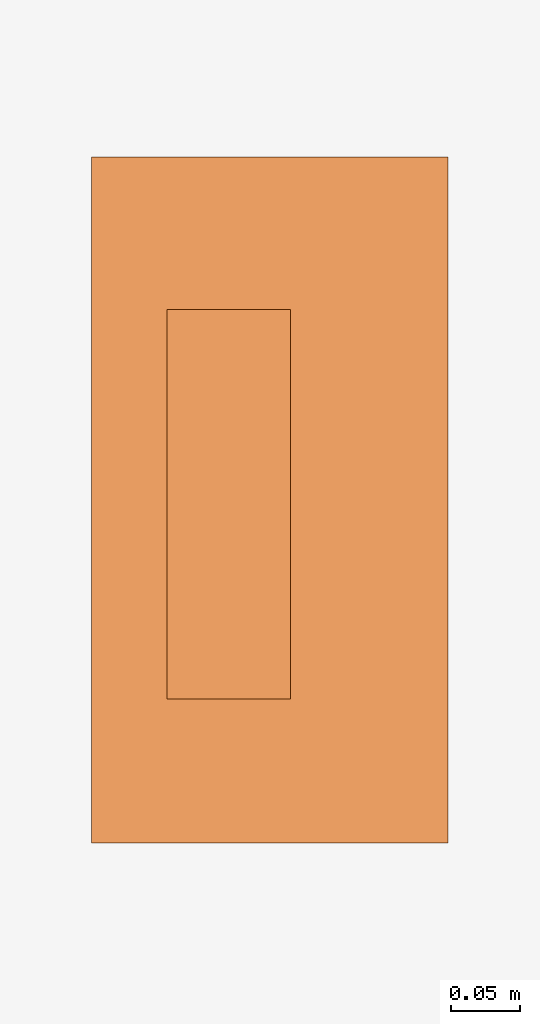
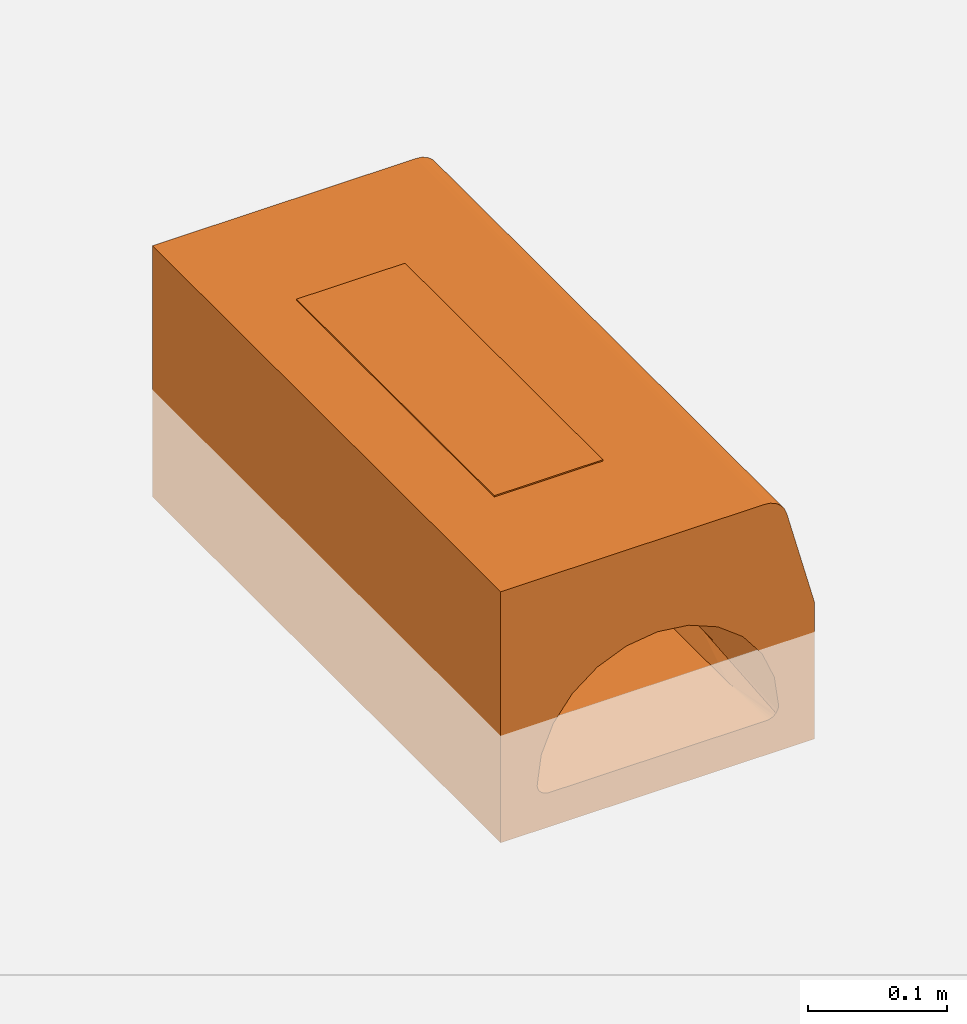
# One storey, part 2 of 2: 1 proxy.
"""IFC2X3 building model written with IfcOpenShell, lengths in millimetres."""

from ifc_helpers import new_model, entity, si_unit, converted_unit, direction, frame, origin, place, context, subcontext, project, spatial, faceted_brep, source, transform, mapped, material, material_list, element, save


model = new_model("IFC2X3")

# Units and contexts
model_context = context("Model", 3, precision=1e-06, world=origin(), true_north=direction((2.0, 6.12303176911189e-17, 1.0)))
context_of_model = context(None, 3, precision=1e-06, world=origin(), true_north=direction((2.0, 6.12303176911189e-17, 1.0)))
body_context = subcontext(model_context, "Body", "Model", "MODEL_VIEW")
ifc_project = project(units=[si_unit("LENGTHUNIT", "METRE", prefix="MILLI"), si_unit("AREAUNIT", "SQUARE_METRE", prefix="MILLI"), si_unit("VOLUMEUNIT", "CUBIC_METRE", prefix="MILLI"), converted_unit("PLANEANGLEUNIT", "DEGREE", entity("IfcRatioMeasure", 0.0174532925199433), si_unit("PLANEANGLEUNIT", "RADIAN"), dimensions=[0, 0, 0, 0, 0, 0, 0]), si_unit("TIMEUNIT", "SECOND")], contexts=[model_context, context_of_model])

# Site, building, storey
site_placement = place(None, origin())
site = spatial("IfcSite", under=ifc_project, at=site_placement, Name="Default", CompositionType="ELEMENT")
building_placement = place(site_placement, origin())
building = spatial("IfcBuilding", under=site, at=building_placement, CompositionType="ELEMENT")
storey_placement = place(building_placement, origin())
storey = spatial("IfcBuildingStorey", under=building, at=storey_placement, Name="Level 1", CompositionType="ELEMENT", Elevation=0.0)

# Proxy
ifc_material_1 = material(Name="ACO Polymer Concrete.")
ifc_material_2 = material(Name="Iron, Cast")
ifc_material_list = material_list([ifc_material_1, ifc_material_2])
shared_shape = source(origin(), body_context, "Body", "Brep", [
    faceted_brep([(-38.8908729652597, 158.89087296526, -85.0), (-27.4999999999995, 167.631397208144, -85.0), (-14.2350474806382, 173.125920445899, -85.0), (-53.1259204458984, 134.235047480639, -85.0), (0.0, 175.0, -85.0), (-47.6313972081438, 147.5, -85.0), (27.5000000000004, 167.631397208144, -85.0), (47.6313972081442, 92.4999999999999, -85.0), (14.2350474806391, 173.125920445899, -85.0), (38.8908729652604, 158.89087296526, -85.0), (47.6313972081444, 147.5, -85.0), (53.125920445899, 134.235047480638, -85.0), (55.0, 120.0, -85.0), (-53.1259204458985, 105.764952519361, -85.0), (-55.0, 120.0, -85.0), (-38.8908729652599, 81.1091270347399, -85.0), (-47.6313972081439, 92.5, -85.0), (-27.4999999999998, 72.3686027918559, -85.0), (0.0, 65.0, -85.0), (-14.2350474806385, 66.8740795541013, -85.0), (53.1259204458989, 105.764952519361, -85.0), (38.8908729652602, 81.1091270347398, -85.0), (27.5000000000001, 72.3686027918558, -85.0), (14.2350474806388, 66.8740795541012, -85.0), (130.000009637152, 500.0, -95.0), (99.2855055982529, 500.0, -59.2990928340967), (100.017694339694, 500.0, -57.1736244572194), (98.0970309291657, 500.0, -61.2072972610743), (100.256594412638, 500.0, -54.9383072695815), (130.000009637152, 500.0, 25.0), (90.256784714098, 500.0, -65.0), (92.4905855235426, 500.0, -64.7473141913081), (-89.861003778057, 500.0, -65.0), (96.5123324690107, 500.0, -62.8018025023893), (94.6114963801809, 500.0, -64.0020267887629), (105.080360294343, 500.0, 115.499999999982), (106.978468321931, 500.0, 110.91756185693), (93.5434394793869, 500.0, 124.352590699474), (98.125877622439, 500.0, 122.454482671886), (102.060906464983, 500.0, 119.435028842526), (70.6258340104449, 500.0, 15.5185016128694), (86.5957358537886, 500.0, -5.08474068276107), (49.8756910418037, 500.0, 31.2970606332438), (88.625877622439, 500.0, 125.0), (96.7013200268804, 500.0, -29.1140670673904), (-130.0, 500.0, -95.0), (-92.359600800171, 500.0, -64.6828205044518), (-94.6996970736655, 500.0, -63.7514025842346), (-96.7328464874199, 500.0, -62.2648315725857), (-98.330074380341, 500.0, -60.3174094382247), (-99.3900591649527, 500.0, -58.0326726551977), (-99.8455597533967, 500.0, -55.5555555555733), (-96.4496698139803, 500.0, -29.7098733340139), (-130.0, 500.0, 125.0), (-0.102156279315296, 500.0, 44.4959975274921), (25.7538781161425, 500.0, 41.1798486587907), (-70.6500305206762, 500.0, 15.0827127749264), (-86.4925214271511, 500.0, -5.61866012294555), (-25.937240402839, 500.0, 41.020398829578), (-49.9976246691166, 500.0, 30.9889848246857), (-130.0, 0.0, -95.0), (-98.330074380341, 0.0, -60.3174094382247), (-99.3900591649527, 0.0, -58.0326726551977), (-96.7328464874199, 0.0, -62.2648315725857), (-99.8455597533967, 0.0, -55.5555555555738), (-96.4496698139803, 0.0, -29.7098733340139), (-130.0, 0.0, 125.0), (-89.861003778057, 0.0, -65.0), (-92.359600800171, 0.0, -64.6828205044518), (130.000009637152, 0.0, -95.0), (-94.6996970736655, 0.0, -63.7514025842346), (-86.4925214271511, 0.0, -5.61866012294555), (-70.6500305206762, 0.0, 15.0827127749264), (-49.9976246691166, 0.0, 30.9889848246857), (-25.937240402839, 0.0, 41.020398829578), (49.8756910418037, 0.0, 31.2970606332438), (70.6258340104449, 0.0, 15.5185016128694), (106.978468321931, 0.0, 110.91756185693), (-0.102156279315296, 0.0, 44.4959975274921), (88.625877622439, 0.0, 125.0), (25.7538781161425, 0.0, 41.1798486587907), (92.4905855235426, 0.0, -64.7473141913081), (90.256784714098, 0.0, -65.0), (96.5123324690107, 0.0, -62.8018025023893), (94.6114963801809, 0.0, -64.0020267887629), (98.0970309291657, 0.0, -61.2072972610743), (99.2855055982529, 0.0, -59.2990928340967), (100.017694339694, 0.0, -57.1736244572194), (100.256594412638, 0.0, -54.9383072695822), (130.000009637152, 0.0, 25.0), (93.5434394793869, 0.0, 124.352590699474), (105.080360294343, 0.0, 115.499999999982), (86.5957358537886, 0.0, -5.08474068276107), (96.7013200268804, 0.0, -29.1140670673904), (102.060906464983, 0.0, 119.435028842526), (98.125877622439, 0.0, 122.454482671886), (-53.1259204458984, 105.764952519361, -95.0), (-47.6313972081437, 92.4999999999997, -95.0), (-55.0, 120.0, -95.0), (-38.8908729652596, 81.1091270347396, -95.0), (-27.4999999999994, 72.3686027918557, -95.0), (-14.2350474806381, 66.8740795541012, -95.0), (0.0, 65.0, -95.0), (-53.1259204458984, 134.235047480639, -95.0), (-53.1259204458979, 365.764952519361, -95.0), (-47.6313972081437, 147.5, -95.0), (-47.6313972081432, 352.5, -95.0), (-38.8908729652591, 341.10912703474, -95.0), (-27.4999999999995, 167.631397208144, -95.0), (-38.8908729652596, 158.89087296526, -95.0), (-27.499999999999, 332.368602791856, -95.0), (0.0, 175.0, -95.0), (-14.2350474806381, 173.125920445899, -95.0), (-14.2350474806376, 326.874079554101, -95.0), (0.0, 325.0, -95.0), (14.2350474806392, 66.8740795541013, -95.0), (27.5000000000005, 72.368602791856, -95.0), (38.8908729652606, 81.1091270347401, -95.0), (47.6313972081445, 92.5000000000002, -95.0), (53.125920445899, 105.764952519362, -95.0), (27.5000000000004, 167.631397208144, -95.0), (14.2350474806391, 173.125920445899, -95.0), (27.5000000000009, 332.368602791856, -95.0), (38.8908729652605, 158.89087296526, -95.0), (38.890872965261, 341.10912703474, -95.0), (55.0, 120.0, -95.0), (53.125920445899, 134.235047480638, -95.0), (53.1259204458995, 365.764952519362, -95.0), (47.6313972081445, 147.5, -95.0), (47.6313972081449, 352.5, -95.0), (14.2350474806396, 326.874079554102, -95.0), (-55.0, 380.0, -95.0), (-53.1259204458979, 394.235047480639, -95.0), (-47.6313972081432, 407.5, -95.0), (-38.8908729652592, 418.89087296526, -95.0), (-14.2350474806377, 433.125920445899, -95.0), (-27.499999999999, 427.631397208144, -95.0), (0.0, 435.0, -95.0), (55.0, 380.0, -95.0), (14.2350474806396, 433.125920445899, -95.0), (27.5000000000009, 427.631397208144, -95.0), (53.1259204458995, 394.235047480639, -95.0), (47.6313972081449, 407.5, -95.0), (38.8908729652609, 418.89087296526, -95.0), (88.625877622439, 152.199845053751, 125.0), (-14.2350474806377, 433.125920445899, -85.0), (0.0, 435.0, -85.0), (-27.4999999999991, 427.631397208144, -85.0), (-47.6313972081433, 407.5, -85.0), (-38.8908729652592, 418.89087296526, -85.0), (-38.8908729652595, 341.10912703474, -85.0), (-55.0, 380.0, -85.0), (-53.125920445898, 394.235047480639, -85.0), (27.5000000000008, 427.631397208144, -85.0), (-14.2350474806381, 326.874079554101, -85.0), (14.2350474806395, 433.125920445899, -85.0), (38.8908729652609, 418.89087296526, -85.0), (47.6313972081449, 407.5, -85.0), (53.1259204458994, 394.235047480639, -85.0), (55.0, 380.0, -85.0), (47.6313972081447, 352.5, -85.0), (-47.6313972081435, 352.5, -85.0), (-53.1259204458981, 365.764952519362, -85.0), (-27.4999999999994, 332.368602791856, -85.0), (14.2350474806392, 326.874079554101, -85.0), (0.0, 325.0, -85.0), (27.5000000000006, 332.368602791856, -85.0), (53.1259204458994, 365.764952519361, -85.0), (38.8908729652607, 341.10912703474, -85.0), (-99.8455597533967, 55.2086974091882, -55.5555555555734), (-99.8455597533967, 125.000002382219, -55.5555555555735), (100.256594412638, 389.582603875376, -54.9383072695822), (100.256594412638, 319.791305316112, -54.9383072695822), (90.2567847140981, 209.373916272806, -65.0), (90.2567847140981, 139.582610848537, -65.0), (100.256594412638, 180.208694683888, -54.9383072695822), (100.256594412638, 250.000006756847, -54.9383072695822), (90.2567847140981, 55.2087053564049, -65.0), (100.256594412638, 110.417396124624, -54.9383072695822), (90.2567847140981, 389.582618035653, -65.0), (90.2567847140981, 279.165221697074, -65.0), (-89.861003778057, 444.791300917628, -65.0), (-89.861003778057, 220.834782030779, -65.0), (-99.8455597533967, 250.000001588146, -55.5555555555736), (-99.8455597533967, 187.500001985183, -55.5555555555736), (-89.861003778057, 165.626090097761, -65.0), (-89.861003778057, 110.41739101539, -65.0), (-89.861003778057, 55.2086919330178, -65.0), (-99.8455597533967, 389.582608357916, -55.5555555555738), (-99.8455597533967, 319.791306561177, -55.5555555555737), (-89.861003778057, 360.41739101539, -65.0), (-99.8455597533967, 444.791305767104, -55.5555555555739), (-89.861003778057, 290.626082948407, -65.0), (106.978468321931, 423.900064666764, 110.91756185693), (100.192344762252, 383.807890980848, 121.073713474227), (103.699591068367, 348.576324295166, 117.566467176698), (105.66949189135, 104.875634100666, 114.397333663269), (103.699591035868, 151.423670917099, 117.566467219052), (95.8968628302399, 348.576326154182, 123.553711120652), (92.0249211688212, 364.149902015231, 124.693488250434), (92.6444200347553, 238.971100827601, 124.570172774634), (105.523211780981, 238.971095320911, 114.687928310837), (106.978468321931, 304.399745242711, 110.91756185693), (105.802663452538, 364.149900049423, 114.121454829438), (100.192344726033, 116.192108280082, 121.073713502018), (102.995163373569, 249.999998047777, 118.430753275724), (96.9140184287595, 250.0, 123.096979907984), (100.192344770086, 249.999999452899, 121.073713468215), (88.625877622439, 423.900077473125, 125.0), (106.978468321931, 152.199872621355, 110.91756185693), (95.8968627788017, 151.423674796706, 123.553711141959), (88.625877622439, 304.399753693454, 125.0), (92.3258671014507, 104.875635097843, 124.636257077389)], [[[0, 1, 2, 3]], [[4, 3, 2]], [[5, 0, 3]], [[6, 7, 3, 4]], [[8, 6, 4]], [[6, 9, 10, 7]], [[10, 11, 12]], [[13, 14, 3, 7]], [[15, 16, 13, 17]], [[18, 19, 17, 7]], [[7, 17, 13]], [[12, 20, 7, 10]], [[7, 21, 22, 23]], [[7, 23, 18]], [[24, 25, 26]], [[25, 24, 27]], [[24, 26, 28, 29]], [[30, 31, 24, 32]], [[33, 27, 24]], [[34, 33, 24]], [[31, 34, 24]], [[35, 36, 37, 38]], [[38, 39, 35]], [[40, 36, 29, 41]], [[36, 42, 43, 37]], [[41, 29, 44]], [[29, 28, 44]], [[45, 46, 32, 24]], [[46, 45, 47]], [[48, 45, 49]], [[45, 48, 47]], [[50, 49, 45]], [[51, 50, 45]], [[52, 51, 45, 53]], [[40, 42, 36]], [[54, 53, 43, 55]], [[56, 57, 53]], [[58, 59, 53]], [[53, 59, 56]], [[58, 53, 54]], [[57, 52, 53]], [[55, 43, 42]], [[60, 61, 62]], [[61, 60, 63]], [[62, 64, 60]], [[60, 64, 65, 66]], [[67, 68, 60, 69]], [[70, 63, 60]], [[68, 70, 60]], [[71, 72, 66]], [[66, 73, 74]], [[73, 66, 72]], [[71, 66, 65]], [[75, 76, 77]], [[78, 79, 66, 74]], [[78, 80, 79]], [[79, 80, 75, 77]], [[69, 81, 82, 67]], [[83, 84, 69]], [[81, 69, 84]], [[85, 69, 86]], [[69, 85, 83]], [[87, 86, 69]], [[88, 87, 69, 89]], [[90, 79, 77, 91]], [[92, 93, 89]], [[76, 92, 89, 77]], [[91, 94, 95, 90]], [[93, 88, 89]], [[60, 96, 97]], [[96, 60, 98]], [[60, 97, 99]], [[100, 101, 60]], [[99, 100, 60]], [[60, 101, 102]], [[103, 98, 60, 104]], [[105, 103, 106, 107]], [[108, 109, 110]], [[111, 112, 113, 114]], [[112, 108, 110, 113]], [[109, 105, 107, 110]], [[115, 116, 69]], [[102, 115, 69, 60]], [[69, 117, 118]], [[117, 69, 116]], [[69, 118, 119]], [[120, 121, 122]], [[123, 120, 122, 124]], [[119, 125, 69]], [[126, 127, 69, 125]], [[128, 123, 124, 129]], [[126, 128, 129, 127]], [[121, 111, 130, 122]], [[106, 103, 104]], [[131, 45, 132]], [[45, 131, 104, 60]], [[132, 45, 133]], [[134, 133, 45]], [[135, 136, 45]], [[134, 45, 136]], [[137, 135, 45, 24]], [[127, 138, 24, 69]], [[139, 137, 24]], [[140, 139, 24]], [[141, 142, 24]], [[143, 24, 142]], [[24, 143, 140]], [[141, 24, 138]], [[114, 130, 111]], [[53, 66, 79, 144]], [[60, 66, 53, 45]], [[145, 146, 147]], [[148, 149, 147, 150]], [[151, 152, 148, 150]], [[153, 154, 147, 146]], [[155, 153, 146]], [[156, 157, 158, 159]], [[154, 153, 156, 160]], [[150, 161, 162, 151]], [[150, 147, 154, 163]], [[164, 165, 154, 166]], [[159, 167, 160, 156]], [[160, 168, 166, 154]], [[11, 126, 125, 12]], [[10, 128, 126, 11]], [[6, 120, 123, 9]], [[9, 123, 128, 10]], [[8, 121, 120, 6]], [[121, 8, 4, 111]], [[2, 112, 111, 4]], [[1, 108, 112, 2]], [[5, 105, 109, 0]], [[0, 109, 108, 1]], [[3, 103, 105, 5]], [[103, 3, 14, 98]], [[13, 96, 98, 14]], [[16, 97, 96, 13]], [[17, 100, 99, 15]], [[15, 99, 97, 16]], [[19, 101, 100, 17]], [[101, 19, 18, 102]], [[23, 115, 102, 18]], [[22, 116, 115, 23]], [[7, 118, 117, 21]], [[21, 117, 116, 22]], [[20, 119, 118, 7]], [[119, 20, 12, 125]], [[158, 141, 138, 159]], [[157, 142, 141, 158]], [[153, 140, 143, 156]], [[156, 143, 142, 157]], [[155, 139, 140, 153]], [[139, 155, 146, 137]], [[145, 135, 137, 146]], [[147, 136, 135, 145]], [[148, 133, 134, 149]], [[149, 134, 136, 147]], [[152, 132, 133, 148]], [[132, 152, 151, 131]], [[162, 104, 131, 151]], [[161, 106, 104, 162]], [[163, 110, 107, 150]], [[150, 107, 106, 161]], [[154, 113, 110, 163]], [[113, 154, 165, 114]], [[164, 130, 114, 165]], [[166, 122, 130, 164]], [[160, 129, 124, 168]], [[168, 124, 122, 166]], [[167, 127, 129, 160]], [[127, 167, 159, 138]], [[71, 65, 52, 57]], [[72, 71, 57, 56]], [[74, 73, 59, 58]], [[73, 72, 56, 59]], [[78, 74, 58, 54]], [[65, 64, 169, 170]], [[51, 52, 65]], [[75, 80, 55, 42]], [[76, 75, 42, 40]], [[93, 92, 41, 44]], [[92, 76, 40, 41]], [[88, 93, 44]], [[54, 55, 80, 78]], [[44, 28, 171, 172]], [[173, 174, 175, 176]], [[177, 81, 84]], [[174, 177, 178, 175]], [[83, 85, 177]], [[88, 178, 87]], [[30, 179, 31]], [[179, 27, 33]], [[178, 85, 86]], [[177, 85, 178]], [[177, 82, 81]], [[172, 171, 179, 180]], [[176, 172, 180, 173]], [[171, 28, 26]], [[34, 179, 33]], [[25, 171, 26]], [[31, 179, 34]], [[171, 27, 179]], [[171, 25, 27]], [[84, 83, 177]], [[178, 86, 87]], [[32, 181, 82, 177]], [[182, 183, 184, 185]], [[170, 186, 185, 184]], [[181, 47, 48]], [[169, 61, 63]], [[186, 170, 169, 187]], [[61, 169, 62]], [[188, 189, 190, 181]], [[67, 187, 68]], [[181, 48, 191]], [[169, 64, 62]], [[189, 183, 192, 190]], [[191, 48, 49]], [[51, 191, 50]], [[50, 191, 49]], [[181, 46, 47]], [[181, 32, 46]], [[70, 187, 63]], [[181, 191, 188]], [[169, 63, 187]], [[68, 187, 70]], [[183, 182, 192]], [[29, 89, 69, 24]], [[36, 193, 89, 29]], [[39, 194, 195]], [[91, 196, 197]], [[198, 199, 200]], [[201, 202, 203]], [[35, 39, 195]], [[203, 35, 195]], [[204, 197, 205]], [[38, 37, 198]], [[39, 38, 194]], [[91, 197, 94]], [[206, 194, 198]], [[35, 193, 36]], [[207, 204, 205, 194]], [[37, 43, 208]], [[77, 209, 196]], [[95, 210, 90]], [[199, 208, 211]], [[204, 210, 95]], [[210, 212, 90]], [[95, 94, 204]], [[207, 194, 206, 204]], [[144, 212, 200]], [[209, 202, 201]], [[198, 194, 38]], [[90, 212, 79]], [[197, 204, 94]], [[35, 203, 193]], [[202, 193, 203]], [[195, 205, 201]], [[195, 201, 203]], [[201, 197, 196]], [[200, 199, 211]], [[208, 199, 37]], [[37, 199, 198]], [[144, 200, 211]], [[200, 210, 206]], [[200, 206, 198]], [[204, 206, 210]], [[77, 196, 91]], [[201, 196, 209]], [[201, 205, 197]], [[194, 205, 195]], [[200, 212, 210]], [[79, 212, 144]], [[53, 144, 211, 208]], [[53, 208, 43]], [[65, 170, 184, 183]], [[65, 183, 189, 188]], [[65, 188, 191, 51]], [[44, 172, 176, 175]], [[44, 175, 178, 88]], [[82, 181, 190, 192]], [[82, 192, 182, 185]], [[82, 185, 186, 187]], [[82, 187, 67]], [[32, 177, 174, 173]], [[32, 173, 180, 179]], [[32, 179, 30]], [[89, 193, 202, 209]], [[89, 209, 77]]]),
    faceted_brep([(-74.6999999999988, 105.0, 126.144067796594), (-74.6999999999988, 105.0, 123.263731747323), (15.3048760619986, 105.0, 123.263731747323), (15.3048760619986, 105.0, 126.144067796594), (15.3048760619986, 389.0, 126.144067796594), (15.3048760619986, 389.0, 123.263731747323), (-74.6999999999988, 389.0, 123.263731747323), (-74.6999999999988, 389.0, 126.144067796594)], [[[0, 1, 2, 3]], [[4, 5, 6, 7]], [[1, 6, 5, 2]], [[7, 6, 1, 0]], [[5, 4, 3, 2]], [[3, 4, 7, 0]]]),
])
proxy_placement = place(storey_placement, frame((-15229.1541432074, -316.659250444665, 0.0)))
element("IfcBuildingElementProxy", 1, at=proxy_placement, inside=storey, material=ifc_material_list, Name="Civil-Drainage-Channel-ACO-KerbDrain-KD200:T0129 - Access unit - 500mm LG - 220mm High:T0129 - Access unit - 500mm LG - 220mm High", ObjectType="T0129 - Access unit - 500mm LG - 220mm High", CompositionType="ELEMENT", context=body_context, shape_type="MappedRepresentation", body=[
    mapped(shared_shape, transform((0.0, 0.0, 0.0), scale=1.0)),
])

save(model, "model.ifc")
